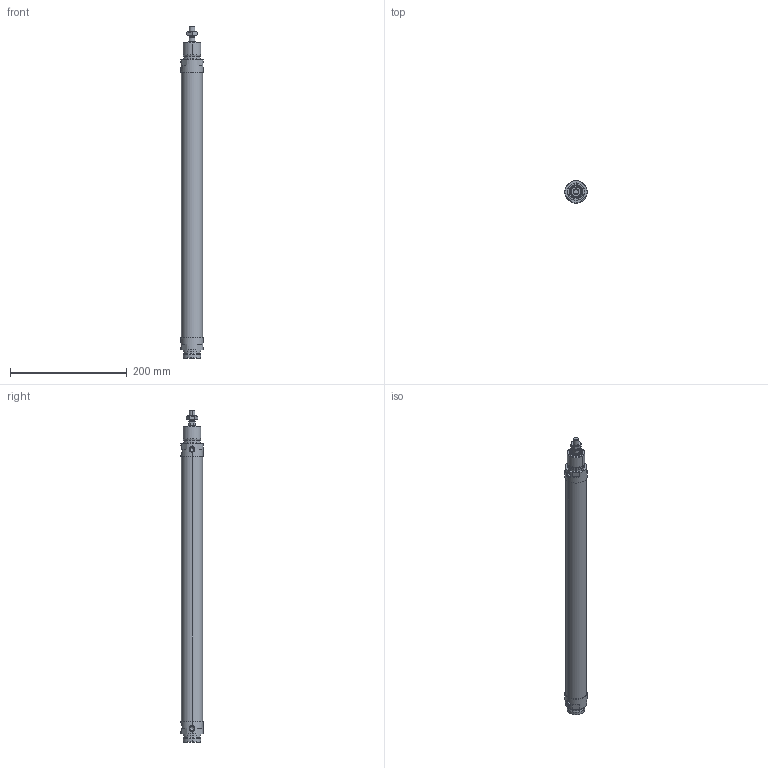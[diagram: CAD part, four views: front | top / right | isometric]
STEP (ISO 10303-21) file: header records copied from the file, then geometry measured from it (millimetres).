
FILE_DESCRIPTION (( 'STEP AP214' ), '1' );
FILE_NAME ('2411738n.STEP', '2016-11-03T11:26:59', ( '' ), ( '' ), 'SwSTEP 2.0', 'SolidWorks 2016', '' );
FILE_SCHEMA (( 'AUTOMOTIVE_DESIGN' ));
Length unit declared in the file: millimetre
Products named in the file (1): 2411738n
Bounding box: 38 x 38 x 568 mm (x, y, z)
Volume: 537530.1 mm3; surface area: 71418.4 mm2
Topology: 3 solids, 3 shells, 183 faces, 433 edges, 263 vertices
Faces by surface type: cylinder 62, cone 52, plane 49, bspline 20
Entity records: 7119 total; most frequent: CARTESIAN_POINT 2073, DIRECTION 883, ORIENTED_EDGE 846, EDGE_CURVE 423, AXIS2_PLACEMENT_3D 359, VERTEX_POINT 263, EDGE_LOOP 200, CIRCLE 195
